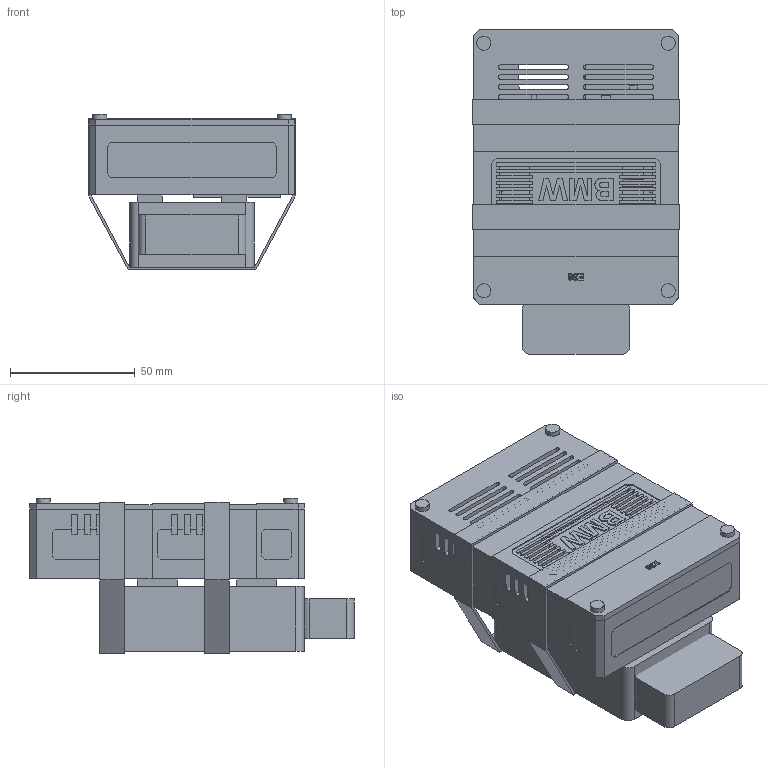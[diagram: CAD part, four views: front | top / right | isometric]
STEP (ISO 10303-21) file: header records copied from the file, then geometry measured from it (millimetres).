
FILE_DESCRIPTION(('Open CASCADE Model'),'2;1');
FILE_NAME( 'ELM backpack C - M50 STYLE - DIRECT SOLDER - FIT CHECK REQUIRED', '2026-09-07T22:44:39',('Author'),('Open CASCADE'), 'Open CASCADE STEP processor 7.9','build123d','Unknown');
FILE_SCHEMA(('AUTOMOTIVE_DESIGN { 1 0 10303 214 1 1 1 1 }'));
Length unit declared in the file: millimetre
Products named in the file (119): ELM backpack C - M50 STYLE - DIRECT SOLDER - FIT CHECK REQUIRED; base; lid; buck keeper 4; REF optional silver rib paint; REF optional silver lettering paint; REF buck PCB; REF buck input DC jack; REF buck input terminal; REF terminal screw; REF buck output terminal; REF buck input capacitor; REF buck output capacitor; REF buck inductor; REF buck controller; REF buck USB C; REF ESP PCB; REF ESP antenna - no tie here; REF ESP RF shield - tie here; REF ESP USB C; REF ESP solder pad; REF direct solder joint; REF ESP button; REF ESP RGB LED; REF insulating support pad; REF keeper toe pad - compressed; REF mounting silicone pad; REF ELM shell - UNMEASURED; REF OBD plug - UNMEASURED; REF M3 x 10 screw; REF M3 x 6 screw; REF reusable 10 mm strap; REF ESP retaining nylon tie
Assembly tree (121 placements, depth 2):
  ELM backpack C - M50 STYLE - DIRECT SOLDER - FIT CHECK REQUIRED
    base
    lid
    buck keeper 4  x4
    REF optional silver rib paint
    REF optional silver rib paint
    REF optional silver rib paint
    REF optional silver rib paint
    REF optional silver rib paint
    REF optional silver rib paint
    REF optional silver rib paint
    REF optional silver rib paint
    REF optional silver rib paint
    REF optional silver rib paint
    REF optional silver rib paint
    REF optional silver rib paint
    REF optional silver rib paint
    REF optional silver rib paint
    REF optional silver lettering paint
    REF buck PCB
    REF buck input DC jack
    REF buck input terminal
    REF terminal screw
    REF terminal screw
    REF buck output terminal
    REF terminal screw
    REF terminal screw
    REF buck input capacitor
    REF buck output capacitor
    REF buck inductor
    REF buck controller
    REF buck USB C
    REF ESP PCB
    REF ESP antenna - no tie here
    REF ESP RF shield - tie here
    REF ESP USB C
    REF ESP USB C
    REF ESP solder pad
    REF ESP solder pad
    REF ESP solder pad
    REF ESP solder pad
    REF ESP solder pad
    REF ESP solder pad
    REF ESP solder pad
    REF ESP solder pad
    REF ESP solder pad
    REF ESP solder pad
    REF ESP solder pad
    REF ESP solder pad
    REF ESP solder pad
    REF ESP solder pad
    REF ESP solder pad
    REF ESP solder pad
    REF ESP solder pad
    REF ESP solder pad
    REF ESP solder pad
    REF ESP solder pad
    REF ESP solder pad
    REF ESP solder pad
    REF direct solder joint
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Bounding box: 82.8 x 130 x 62.4 mm (x, y, z)
Volume: 202831.1 mm3; surface area: 110616 mm2
Topology: 123 solids, 123 shells, 1483 faces, 3601 edges, 2398 vertices
Faces by surface type: plane 1209, cylinder 178, extrusion 96
Full cylindrical faces by diameter (mm): 1.4 x44, 1.5 x8, 2.6 x8, 3 x8, 3.4 x12, 5.6 x8, 6.4 x4, 9 x1, 10 x1
Entity records: 93344 total; most frequent: CARTESIAN_POINT 19638, DIRECTION 11998, VECTOR 8054, LINE 7958, ORIENTED_EDGE 7112, PCURVE 7112, DEFINITIONAL_REPRESENTATION 7112, EDGE_CURVE 3556
